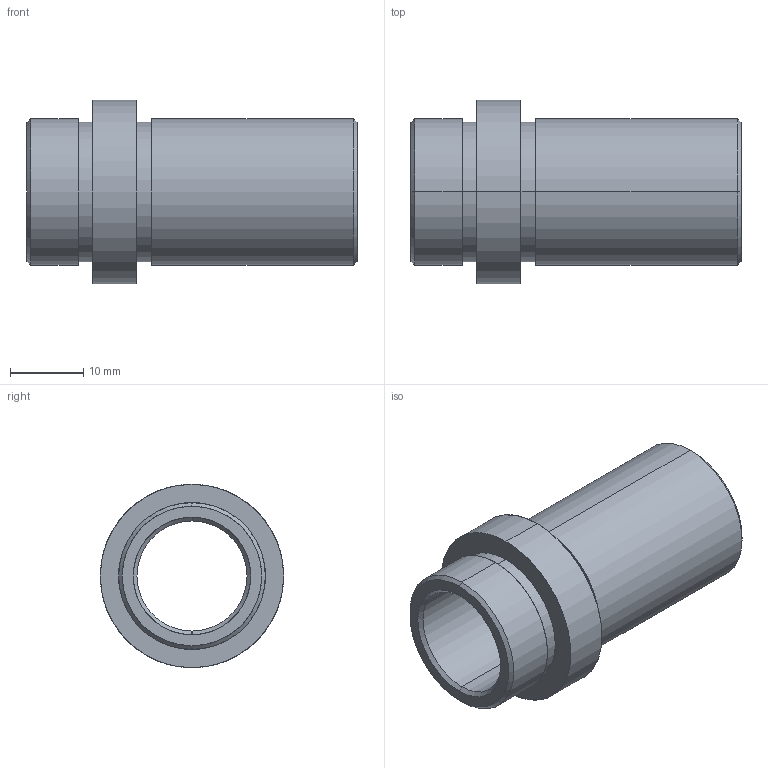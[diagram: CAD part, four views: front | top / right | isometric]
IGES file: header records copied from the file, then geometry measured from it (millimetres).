
Start section: SolidWorks IGES FILE using analytic representation for surfaces
Global section: file name: D:\zzzzz\Delta\D21\15\D21 - 15x36.IGS; native system: SolidWorks 2004 by SolidWorks Corporation; preprocessor: Version 5.3; author: Hkn; date: 080326.191448; units: millimetre
Bounding box: 45 x 25 x 25 mm (x, y, z)
Surface area: 5716.1 mm2 (no closed solid volume)
Topology: 0 solids, 0 shells, 26 faces, 464 edges, 464 vertices
Faces by surface type: revolution 20, bspline 6
